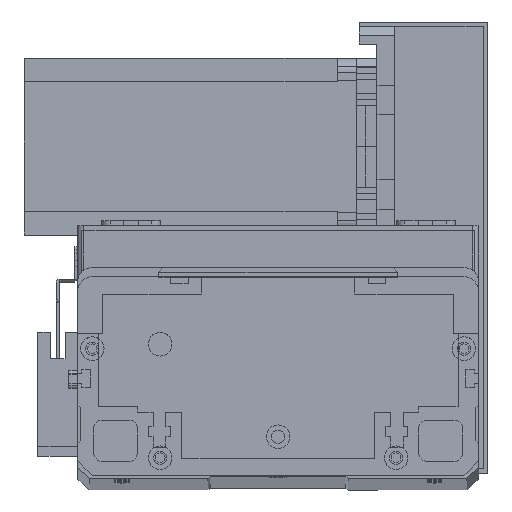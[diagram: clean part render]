
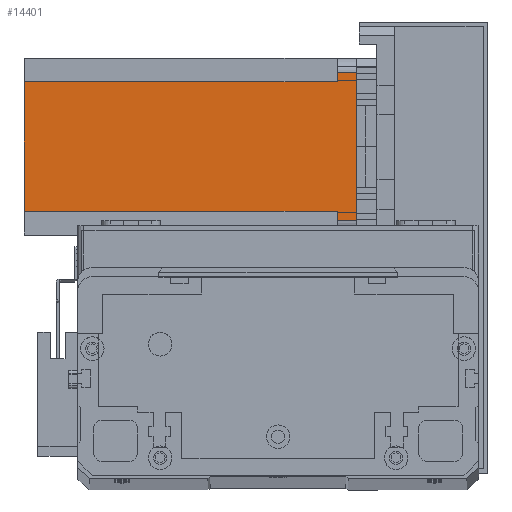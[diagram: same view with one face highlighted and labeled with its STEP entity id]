
A CAD part, top view. The second image highlights one B-rep face of the part: STEP entity #14401.
In plain terms, the highlighted planar face has unit normal (0, 0, 1) as drawn and (0, 1, 0) by its records, which use the part's own axes.
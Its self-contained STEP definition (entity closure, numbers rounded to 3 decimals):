
#593 = FACE_OUTER_BOUND ( 'NONE', #4357, .T. ) ;
#689 = DIRECTION ( 'NONE',  ( 0., 0., 1. ) ) ;
#915 = CARTESIAN_POINT ( 'NONE',  ( 52., 60., -112.5 ) ) ;
#1032 = VERTEX_POINT ( 'NONE', #23025 ) ;
#2008 = EDGE_CURVE ( 'NONE', #10815, #15314, #5748, .T. ) ;
#2223 = DIRECTION ( 'NONE',  ( -1., 0., 0. ) ) ;
#3105 = VERTEX_POINT ( 'NONE', #8012 ) ;
#4264 = EDGE_CURVE ( 'NONE', #3105, #1032, #11767, .T. ) ;
#4357 = EDGE_LOOP ( 'NONE', ( #18099, #17817, #29338, #12146, #23682, #20032, #26969, #18125 ) ) ;
#4981 = LINE ( 'NONE', #30308, #23884 ) ;
#5095 = CARTESIAN_POINT ( 'NONE',  ( 55., 60., 0. ) ) ;
#5295 = CARTESIAN_POINT ( 'NONE',  ( 55., 60., -6.5 ) ) ;
#5748 = LINE ( 'NONE', #6509, #23862 ) ;
#6221 = DIRECTION ( 'NONE',  ( 0., 0., 1. ) ) ;
#6509 = CARTESIAN_POINT ( 'NONE',  ( 5., 60., -112.5 ) ) ;
#7073 = VECTOR ( 'NONE', #8313, 1000. ) ;
#7863 = LINE ( 'NONE', #20071, #7073 ) ;
#8012 = CARTESIAN_POINT ( 'NONE',  ( 52., 60., -112.5 ) ) ;
#8313 = DIRECTION ( 'NONE',  ( 0., 0., -1. ) ) ;
#9742 = EDGE_CURVE ( 'NONE', #1032, #28969, #10509, .T. ) ;
#9980 = VERTEX_POINT ( 'NONE', #13255 ) ;
#10231 = VECTOR ( 'NONE', #689, 1000. ) ;
#10509 = LINE ( 'NONE', #24057, #28133 ) ;
#10815 = VERTEX_POINT ( 'NONE', #21643 ) ;
#11320 = EDGE_CURVE ( 'NONE', #16369, #10815, #23164, .T. ) ;
#11767 = LINE ( 'NONE', #915, #10231 ) ;
#11919 = DIRECTION ( 'NONE',  ( -1., 0., 0. ) ) ;
#12146 = ORIENTED_EDGE ( 'NONE', *, *, #4264, .F. ) ;
#12317 = CARTESIAN_POINT ( 'NONE',  ( 8., 60., -6.5 ) ) ;
#12691 = CARTESIAN_POINT ( 'NONE',  ( 0., 60., -112.5 ) ) ;
#13255 = CARTESIAN_POINT ( 'NONE',  ( 8., 60., -112.5 ) ) ;
#13957 = AXIS2_PLACEMENT_3D ( 'NONE', #27945, #26901, #26881 ) ;
#14220 = VERTEX_POINT ( 'NONE', #5095 ) ;
#14401 = ADVANCED_FACE ( 'NONE', ( #593 ), #27559, .T. ) ;
#15314 = VERTEX_POINT ( 'NONE', #25273 ) ;
#15672 = EDGE_CURVE ( 'NONE', #16369, #9980, #26491, .T. ) ;
#16369 = VERTEX_POINT ( 'NONE', #18740 ) ;
#17469 = DIRECTION ( 'NONE',  ( -1., 0., 0. ) ) ;
#17817 = ORIENTED_EDGE ( 'NONE', *, *, #18706, .T. ) ;
#18099 = ORIENTED_EDGE ( 'NONE', *, *, #29525, .F. ) ;
#18125 = ORIENTED_EDGE ( 'NONE', *, *, #2008, .T. ) ;
#18664 = LINE ( 'NONE', #12691, #25396 ) ;
#18706 = EDGE_CURVE ( 'NONE', #14220, #28969, #7863, .T. ) ;
#18740 = CARTESIAN_POINT ( 'NONE',  ( 8., 60., -6.5 ) ) ;
#20032 = ORIENTED_EDGE ( 'NONE', *, *, #15672, .F. ) ;
#20071 = CARTESIAN_POINT ( 'NONE',  ( 55., 60., -112.5 ) ) ;
#20522 = VECTOR ( 'NONE', #29604, 1000. ) ;
#21643 = CARTESIAN_POINT ( 'NONE',  ( 5., 60., -6.5 ) ) ;
#23025 = CARTESIAN_POINT ( 'NONE',  ( 52., 60., -6.5 ) ) ;
#23164 = LINE ( 'NONE', #12317, #28368 ) ;
#23682 = ORIENTED_EDGE ( 'NONE', *, *, #27264, .T. ) ;
#23801 = DIRECTION ( 'NONE',  ( 1., 0., 0. ) ) ;
#23862 = VECTOR ( 'NONE', #6221, 1000. ) ;
#23884 = VECTOR ( 'NONE', #2223, 1000. ) ;
#24057 = CARTESIAN_POINT ( 'NONE',  ( 52., 60., -6.5 ) ) ;
#25273 = CARTESIAN_POINT ( 'NONE',  ( 5., 60., 0. ) ) ;
#25396 = VECTOR ( 'NONE', #17469, 1000. ) ;
#26491 = LINE ( 'NONE', #29439, #20522 ) ;
#26881 = DIRECTION ( 'NONE',  ( 0., 0., 1. ) ) ;
#26901 = DIRECTION ( 'NONE',  ( 0., 1., 0. ) ) ;
#26969 = ORIENTED_EDGE ( 'NONE', *, *, #11320, .T. ) ;
#27264 = EDGE_CURVE ( 'NONE', #3105, #9980, #18664, .T. ) ;
#27559 = PLANE ( 'NONE',  #13957 ) ;
#27945 = CARTESIAN_POINT ( 'NONE',  ( 0., 60., -112.5 ) ) ;
#28133 = VECTOR ( 'NONE', #23801, 1000. ) ;
#28368 = VECTOR ( 'NONE', #11919, 1000. ) ;
#28969 = VERTEX_POINT ( 'NONE', #5295 ) ;
#29338 = ORIENTED_EDGE ( 'NONE', *, *, #9742, .F. ) ;
#29439 = CARTESIAN_POINT ( 'NONE',  ( 8., 60., -112.5 ) ) ;
#29525 = EDGE_CURVE ( 'NONE', #14220, #15314, #4981, .T. ) ;
#29604 = DIRECTION ( 'NONE',  ( 0., 0., -1. ) ) ;
#30308 = CARTESIAN_POINT ( 'NONE',  ( 0., 60., 0. ) ) ;
